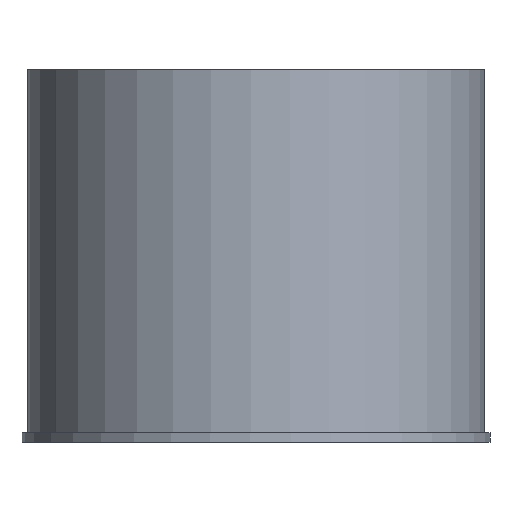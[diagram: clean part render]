
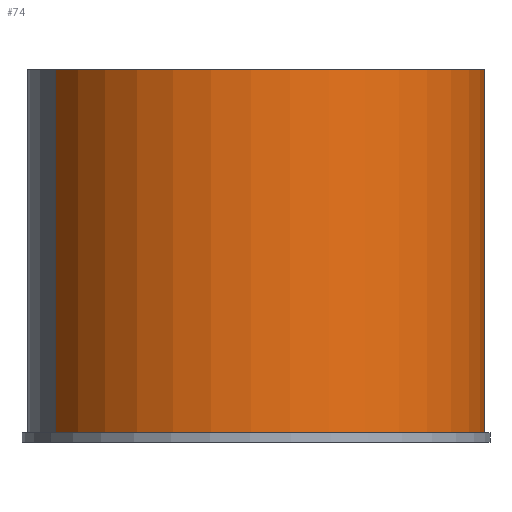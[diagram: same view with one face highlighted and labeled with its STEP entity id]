
A CAD part, front view. The second image highlights one B-rep face of the part: STEP entity #74.
In plain terms, the highlighted free-form (B-spline) face has degree [1, 2] with [2, 5] control points.
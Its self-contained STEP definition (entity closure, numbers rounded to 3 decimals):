
#74=ADVANCED_FACE('',(#177),#178,.T.);
#102=VERTEX_POINT('',#210);
#104=VERTEX_POINT('',#212);
#108=EDGE_CURVE('',#104,#102,#216,.T.);
#118=VERTEX_POINT('',#226);
#120=EDGE_CURVE('',#104,#118,#228,.T.);
#122=VERTEX_POINT('',#230);
#126=EDGE_CURVE('',#102,#122,#234,.T.);
#128=EDGE_CURVE('',#118,#122,#236,.T.);
#177=FACE_OUTER_BOUND('',#329,.T.);
#178=(B_SPLINE_SURFACE(1,2,((#331,#332,#333,#334,#335),(#336,#337,#338,#339,#340)),.UNSPECIFIED.,.F.,.F.,.F.)B_SPLINE_SURFACE_WITH_KNOTS((2,2),(3,2,3),(0.0,1.0),(0.0,0.5,1.0),.UNSPECIFIED.)RATIONAL_B_SPLINE_SURFACE(((1.0,0.707,1.0,0.707,1.0),(1.0,0.707,1.0,0.707,1.0)))BOUNDED_SURFACE()REPRESENTATION_ITEM('')GEOMETRIC_REPRESENTATION_ITEM()SURFACE());
#210=CARTESIAN_POINT('',(20.974,11.458,1.0));
#212=CARTESIAN_POINT('',(-20.974,-11.458,1.0));
#216=CIRCLE('',#429,23.9);
#226=CARTESIAN_POINT('',(-20.974,-11.458,39.0));
#228=LINE('',#444,#445);
#230=CARTESIAN_POINT('',(20.974,11.458,39.0));
#234=LINE('',#453,#454);
#236=CIRCLE('',#457,23.9);
#329=EDGE_LOOP('',(#504,#505,#506,#507));
#331=CARTESIAN_POINT('',(-20.974,-11.458,39.0));
#332=CARTESIAN_POINT('',(-9.516,-32.432,39.0));
#333=CARTESIAN_POINT('',(11.458,-20.974,39.0));
#334=CARTESIAN_POINT('',(32.432,-9.516,39.0));
#335=CARTESIAN_POINT('',(20.974,11.458,39.0));
#336=CARTESIAN_POINT('',(-20.974,-11.458,1.0));
#337=CARTESIAN_POINT('',(-9.516,-32.432,1.0));
#338=CARTESIAN_POINT('',(11.458,-20.974,1.0));
#339=CARTESIAN_POINT('',(32.432,-9.516,1.0));
#340=CARTESIAN_POINT('',(20.974,11.458,1.0));
#429=AXIS2_PLACEMENT_3D('',#540,#541,#542);
#444=CARTESIAN_POINT('',(-20.974,-11.458,1.0));
#445=VECTOR('',#549,1.0);
#453=CARTESIAN_POINT('',(20.974,11.458,1.0));
#454=VECTOR('',#553,1.0);
#457=AXIS2_PLACEMENT_3D('',#554,#555,#556);
#504=ORIENTED_EDGE('',*,*,#126,.T.);
#505=ORIENTED_EDGE('',*,*,#128,.F.);
#506=ORIENTED_EDGE('',*,*,#120,.F.);
#507=ORIENTED_EDGE('',*,*,#108,.T.);
#540=CARTESIAN_POINT('',(0.,0.,1.0));
#541=DIRECTION('',(0.0,0.0,1.0));
#542=DIRECTION('',(-0.878,-0.479,0.0));
#549=DIRECTION('',(0.0,0.0,1.0));
#553=DIRECTION('',(0.0,0.0,1.0));
#554=CARTESIAN_POINT('',(0.,0.,39.0));
#555=DIRECTION('',(0.,0.,1.0));
#556=DIRECTION('',(-0.878,-0.479,0.0));
